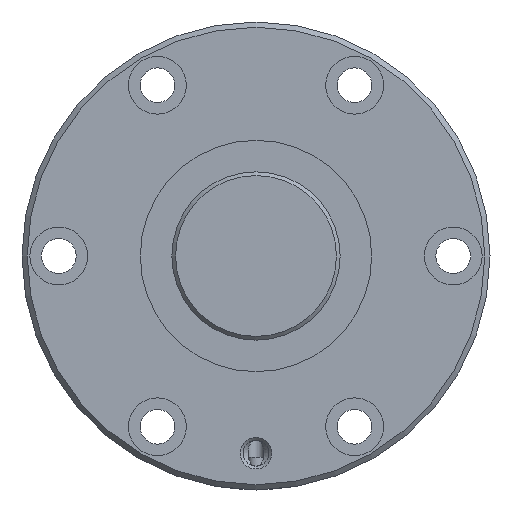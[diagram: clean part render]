
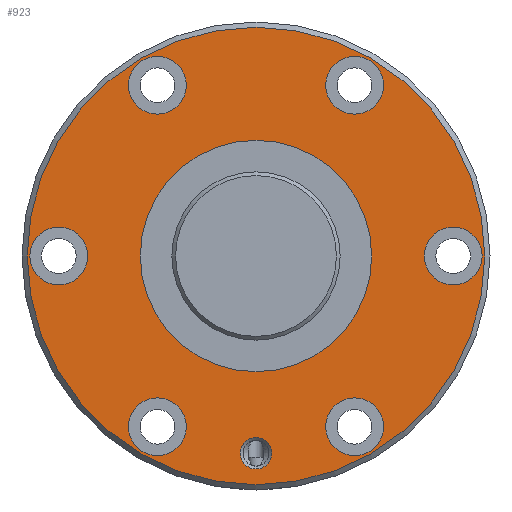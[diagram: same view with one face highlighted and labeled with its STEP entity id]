
A CAD part, left-side view. The second image highlights one B-rep face of the part: STEP entity #923.
In plain terms, the highlighted planar face has unit normal (-1, 0, 0).
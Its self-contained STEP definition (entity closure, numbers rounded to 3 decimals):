
#154=ORIENTED_EDGE('',*,*,#357,.T.);
#155=ORIENTED_EDGE('',*,*,#358,.T.);
#156=ORIENTED_EDGE('',*,*,#359,.T.);
#157=ORIENTED_EDGE('',*,*,#360,.T.);
#158=ORIENTED_EDGE('',*,*,#361,.T.);
#159=ORIENTED_EDGE('',*,*,#362,.T.);
#160=ORIENTED_EDGE('',*,*,#363,.T.);
#161=ORIENTED_EDGE('',*,*,#364,.T.);
#162=ORIENTED_EDGE('',*,*,#356,.F.);
#356=EDGE_CURVE('',#461,#461,#545,.T.);
#357=EDGE_CURVE('',#462,#462,#546,.T.);
#358=EDGE_CURVE('',#463,#463,#547,.F.);
#359=EDGE_CURVE('',#464,#464,#548,.T.);
#360=EDGE_CURVE('',#465,#465,#549,.T.);
#361=EDGE_CURVE('',#466,#466,#550,.T.);
#362=EDGE_CURVE('',#467,#467,#551,.T.);
#363=EDGE_CURVE('',#468,#468,#552,.T.);
#364=EDGE_CURVE('',#469,#469,#553,.T.);
#461=VERTEX_POINT('',#1548);
#462=VERTEX_POINT('',#1551);
#463=VERTEX_POINT('',#1553);
#464=VERTEX_POINT('',#1555);
#465=VERTEX_POINT('',#1557);
#466=VERTEX_POINT('',#1559);
#467=VERTEX_POINT('',#1561);
#468=VERTEX_POINT('',#1563);
#469=VERTEX_POINT('',#1565);
#545=CIRCLE('',#1030,43.5);
#546=CIRCLE('',#1032,22.);
#547=CIRCLE('',#1033,5.5);
#548=CIRCLE('',#1034,3.);
#549=CIRCLE('',#1035,5.5);
#550=CIRCLE('',#1036,5.5);
#551=CIRCLE('',#1037,5.5);
#552=CIRCLE('',#1038,5.5);
#553=CIRCLE('',#1039,5.5);
#626=EDGE_LOOP('',(#154));
#627=EDGE_LOOP('',(#155));
#628=EDGE_LOOP('',(#156));
#629=EDGE_LOOP('',(#157));
#630=EDGE_LOOP('',(#158));
#631=EDGE_LOOP('',(#159));
#632=EDGE_LOOP('',(#160));
#633=EDGE_LOOP('',(#161));
#634=EDGE_LOOP('',(#162));
#766=FACE_BOUND('',#626,.T.);
#767=FACE_BOUND('',#627,.T.);
#768=FACE_BOUND('',#628,.T.);
#769=FACE_BOUND('',#629,.T.);
#770=FACE_BOUND('',#630,.T.);
#771=FACE_BOUND('',#631,.T.);
#772=FACE_BOUND('',#632,.T.);
#773=FACE_BOUND('',#633,.T.);
#774=FACE_BOUND('',#634,.T.);
#888=PLANE('',#1031);
#923=ADVANCED_FACE('',(#766,#767,#768,#769,#770,#771,#772,#773,#774),#888,
 .T.);
#1030=AXIS2_PLACEMENT_3D('',#1547,#1198,#1199);
#1031=AXIS2_PLACEMENT_3D('',#1549,#1200,#1201);
#1032=AXIS2_PLACEMENT_3D('',#1550,#1202,#1203);
#1033=AXIS2_PLACEMENT_3D('',#1552,#1204,#1205);
#1034=AXIS2_PLACEMENT_3D('',#1554,#1206,#1207);
#1035=AXIS2_PLACEMENT_3D('',#1556,#1208,#1209);
#1036=AXIS2_PLACEMENT_3D('',#1558,#1210,#1211);
#1037=AXIS2_PLACEMENT_3D('',#1560,#1212,#1213);
#1038=AXIS2_PLACEMENT_3D('',#1562,#1214,#1215);
#1039=AXIS2_PLACEMENT_3D('',#1564,#1216,#1217);
#1198=DIRECTION('',(1.,0.,0.));
#1199=DIRECTION('',(0.,0.,-1.));
#1200=DIRECTION('',(-1.,0.,0.));
#1201=DIRECTION('',(0.,0.,1.));
#1202=DIRECTION('',(1.,0.,0.));
#1203=DIRECTION('',(0.,0.,-1.));
#1204=DIRECTION('',(-1.,0.,0.));
#1205=DIRECTION('',(0.,0.,1.));
#1206=DIRECTION('',(1.,0.,0.));
#1207=DIRECTION('',(0.,0.,-1.));
#1208=DIRECTION('',(1.,0.,0.));
#1209=DIRECTION('',(0.,0.,-1.));
#1210=DIRECTION('',(1.,0.,0.));
#1211=DIRECTION('',(0.,0.,-1.));
#1212=DIRECTION('',(1.,0.,0.));
#1213=DIRECTION('',(0.,0.,-1.));
#1214=DIRECTION('',(1.,0.,0.));
#1215=DIRECTION('',(0.,0.,-1.));
#1216=DIRECTION('',(1.,0.,0.));
#1217=DIRECTION('',(0.,0.,-1.));
#1547=CARTESIAN_POINT('',(0.,0.,0.));
#1548=CARTESIAN_POINT('',(0.,0.,-43.5));
#1549=CARTESIAN_POINT('',(0.,43.5,0.));
#1550=CARTESIAN_POINT('',(0.,0.,0.));
#1551=CARTESIAN_POINT('',(0.,0.,-22.));
#1552=CARTESIAN_POINT('',(0.,37.5,0.));
#1553=CARTESIAN_POINT('',(0.,37.5,5.5));
#1554=CARTESIAN_POINT('',(0.,0.,-37.5));
#1555=CARTESIAN_POINT('',(0.,0.,-40.5));
#1556=CARTESIAN_POINT('',(0.,-37.5,0.));
#1557=CARTESIAN_POINT('',(0.,-37.5,-5.5));
#1558=CARTESIAN_POINT('',(0.,18.75,32.476));
#1559=CARTESIAN_POINT('',(0.,18.75,26.976));
#1560=CARTESIAN_POINT('',(0.,-18.75,-32.476));
#1561=CARTESIAN_POINT('',(0.,-18.75,-37.976));
#1562=CARTESIAN_POINT('',(0.,-18.75,32.476));
#1563=CARTESIAN_POINT('',(0.,-18.75,26.976));
#1564=CARTESIAN_POINT('',(0.,18.75,-32.476));
#1565=CARTESIAN_POINT('',(0.,18.75,-37.976));
